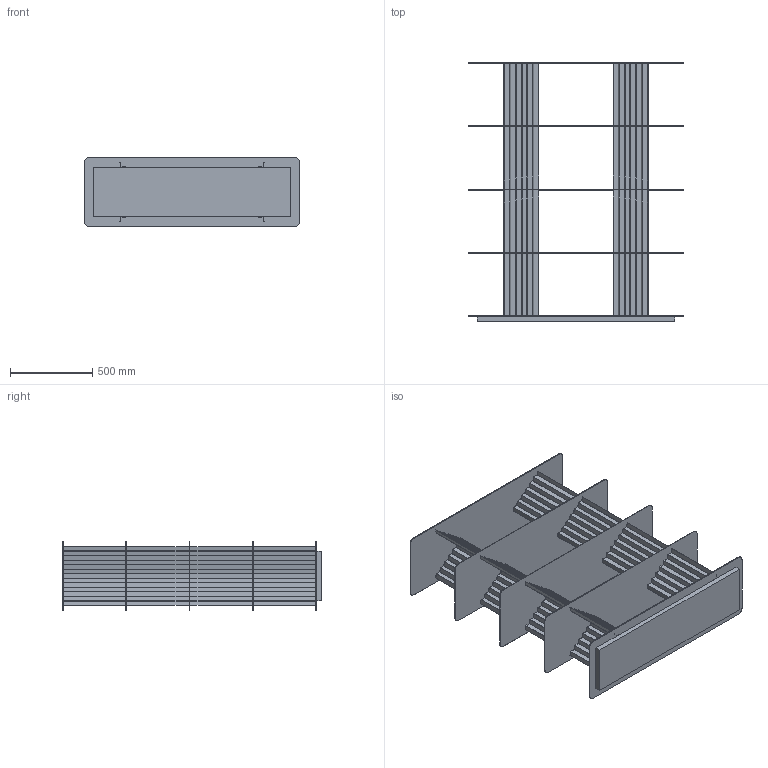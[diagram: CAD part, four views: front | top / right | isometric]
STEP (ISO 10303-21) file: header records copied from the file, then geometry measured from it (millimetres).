
FILE_DESCRIPTION (( 'STEP AP203' ), '1' );
FILE_NAME ('PLEC SHELVES XS 4 NIVELES.STEP', '2025-05-08T10:17:01', ( '' ), ( '' ), 'SwSTEP 2.0', 'SolidWorks 2020', '' );
FILE_SCHEMA (( 'CONFIG_CONTROL_DESIGN' ));
Length unit declared in the file: millimetre
Products named in the file (1): PLEC SHELVES XS 4 NIVELES
Bounding box: 1305 x 1571 x 420 mm (x, y, z)
Volume: 27764489.2 mm3; surface area: 10769719.4 mm2
Topology: 14 solids, 14 shells, 488 faces, 1380 edges, 920 vertices
Faces by surface type: plane 468, cylinder 20
Entity records: 15555 total; most frequent: CARTESIAN_POINT 2789, ORIENTED_EDGE 2760, DIRECTION 2398, EDGE_CURVE 1380, VECTOR 1340, LINE 1340, VERTEX_POINT 920, AXIS2_PLACEMENT_3D 529
